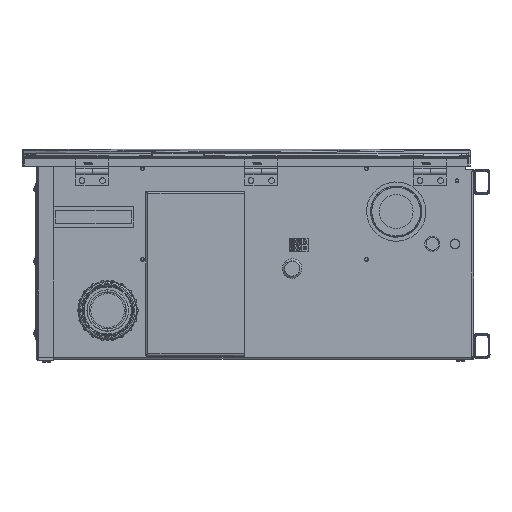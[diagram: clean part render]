
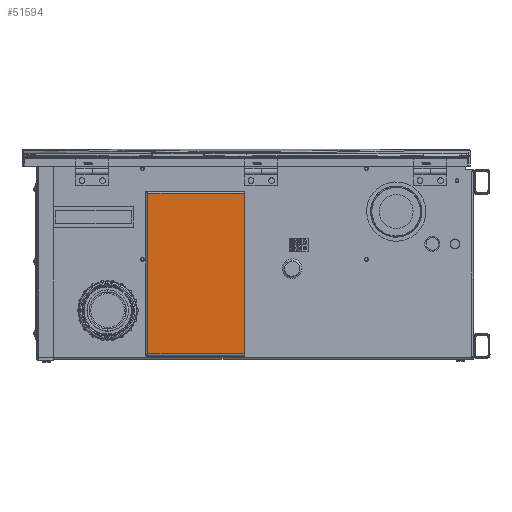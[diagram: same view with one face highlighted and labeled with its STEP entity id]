
A CAD part, left-side view. The second image highlights one B-rep face of the part: STEP entity #51594.
In plain terms, the highlighted planar face has unit normal (-1, 0, 0).
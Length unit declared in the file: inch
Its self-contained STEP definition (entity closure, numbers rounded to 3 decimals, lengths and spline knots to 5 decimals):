
#2750 = FACE_OUTER_BOUND ( 'NONE', #6734, .T. ) ;
#3677 = PLANE ( 'NONE',  #71434 ) ;
#6025 = DIRECTION ( 'NONE',  ( 0., 1., 0. ) ) ;
#6734 = EDGE_LOOP ( 'NONE', ( #51834, #16673, #21801, #61480 ) ) ;
#16673 = ORIENTED_EDGE ( 'NONE', *, *, #47441, .T. ) ;
#17097 = VECTOR ( 'NONE', #62095, 39.37008 ) ;
#17263 = DIRECTION ( 'NONE',  ( 0., -1., 0. ) ) ;
#21801 = ORIENTED_EDGE ( 'NONE', *, *, #77134, .T. ) ;
#23811 = CARTESIAN_POINT ( 'NONE',  ( -11.00186, 7.0886, -5.99344 ) ) ;
#24190 = VERTEX_POINT ( 'NONE', #27455 ) ;
#25565 = CARTESIAN_POINT ( 'NONE',  ( -11.00186, 1.17894, 3.75556 ) ) ;
#27455 = CARTESIAN_POINT ( 'NONE',  ( -11.00186, 7.05344, 3.75556 ) ) ;
#30646 = LINE ( 'NONE', #23811, #81187 ) ;
#36786 = CARTESIAN_POINT ( 'NONE',  ( -11.00186, 4.17894, -1.11894 ) ) ;
#38913 = VECTOR ( 'NONE', #72853, 39.37008 ) ;
#41690 = LINE ( 'NONE', #25565, #70584 ) ;
#43341 = DIRECTION ( 'NONE',  ( 0., 0., 1. ) ) ;
#44104 = EDGE_CURVE ( 'NONE', #83928, #24190, #41690, .T. ) ;
#47441 = EDGE_CURVE ( 'NONE', #78582, #59725, #30646, .T. ) ;
#49139 = CARTESIAN_POINT ( 'NONE',  ( -11.00186, 7.05344, -5.99344 ) ) ;
#51594 = ADVANCED_FACE ( 'NONE', ( #2750 ), #3677, .T. ) ;
#51834 = ORIENTED_EDGE ( 'NONE', *, *, #75600, .T. ) ;
#55488 = CARTESIAN_POINT ( 'NONE',  ( -11.00186, 1.17894, -6.11894 ) ) ;
#59725 = VERTEX_POINT ( 'NONE', #64355 ) ;
#61480 = ORIENTED_EDGE ( 'NONE', *, *, #44104, .T. ) ;
#62095 = DIRECTION ( 'NONE',  ( 0., 0., 1. ) ) ;
#62131 = CARTESIAN_POINT ( 'NONE',  ( -11.00186, 1.17894, 3.75556 ) ) ;
#64355 = CARTESIAN_POINT ( 'NONE',  ( -11.00186, 1.17894, -5.99344 ) ) ;
#69641 = LINE ( 'NONE', #55488, #17097 ) ;
#70584 = VECTOR ( 'NONE', #6025, 39.37008 ) ;
#71434 = AXIS2_PLACEMENT_3D ( 'NONE', #36786, #82887, #43341 ) ;
#72853 = DIRECTION ( 'NONE',  ( 0., 0., -1. ) ) ;
#75600 = EDGE_CURVE ( 'NONE', #24190, #78582, #78088, .T. ) ;
#77134 = EDGE_CURVE ( 'NONE', #59725, #83928, #69641, .T. ) ;
#78088 = LINE ( 'NONE', #79206, #38913 ) ;
#78582 = VERTEX_POINT ( 'NONE', #49139 ) ;
#79206 = CARTESIAN_POINT ( 'NONE',  ( -11.00186, 7.05344, 3.79072 ) ) ;
#81187 = VECTOR ( 'NONE', #17263, 39.37008 ) ;
#82887 = DIRECTION ( 'NONE',  ( -1., 0., 0. ) ) ;
#83928 = VERTEX_POINT ( 'NONE', #62131 ) ;
